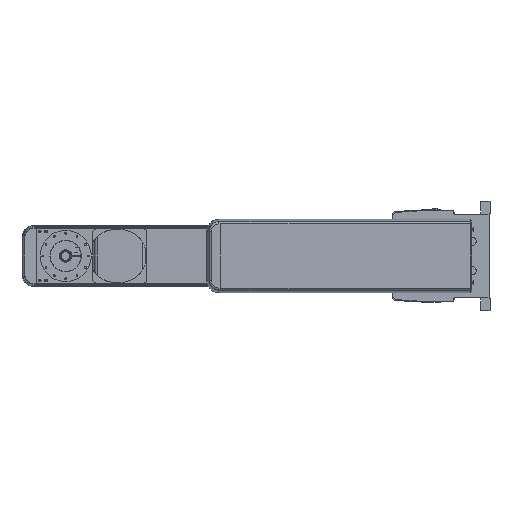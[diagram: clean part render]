
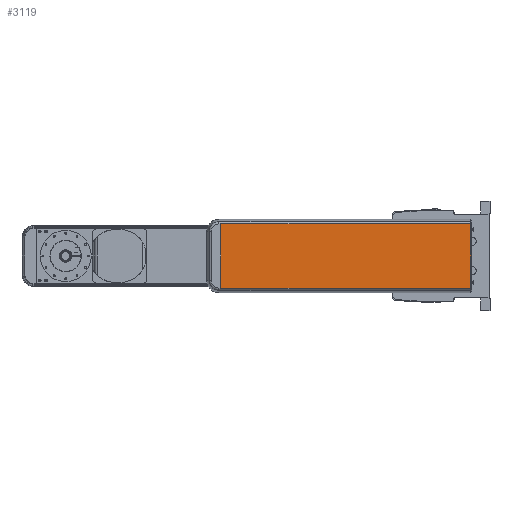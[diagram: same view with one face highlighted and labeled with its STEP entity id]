
A CAD part, front view. The second image highlights one B-rep face of the part: STEP entity #3119.
In plain terms, the highlighted planar face has unit normal (0, -1, 0).
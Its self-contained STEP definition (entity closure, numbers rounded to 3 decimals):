
#3119 = ADVANCED_FACE( '', ( #6750 ), #6751, .F. );
#6750 = FACE_OUTER_BOUND( '', #10988, .T. );
#6751 = PLANE( '', #10989 );
#10988 = EDGE_LOOP( '', ( #19431, #19432, #19433, #19434 ) );
#10989 = AXIS2_PLACEMENT_3D( '', #19435, #19436, #19437 );
#19431 = ORIENTED_EDGE( '', *, *, #22918, .F. );
#19432 = ORIENTED_EDGE( '', *, *, #24905, .T. );
#19433 = ORIENTED_EDGE( '', *, *, #24274, .T. );
#19434 = ORIENTED_EDGE( '', *, *, #23720, .F. );
#19435 = CARTESIAN_POINT( '', ( 68., -71.5, 52.065 ) );
#19436 = DIRECTION( '', ( 0., 1., 0. ) );
#19437 = DIRECTION( '', ( 0., 0., 1. ) );
#22918 = EDGE_CURVE( '', #27544, #27546, #27547, .T. );
#23720 = EDGE_CURVE( '', #27546, #28770, #28771, .T. );
#24274 = EDGE_CURVE( '', #29514, #28770, #29515, .T. );
#24905 = EDGE_CURVE( '', #27544, #29514, #30295, .T. );
#27544 = VERTEX_POINT( '', #34232 );
#27546 = VERTEX_POINT( '', #34235 );
#27547 = LINE( '', #34236, #34237 );
#28770 = VERTEX_POINT( '', #36091 );
#28771 = LINE( '', #36092, #36093 );
#29514 = VERTEX_POINT( '', #37271 );
#29515 = LINE( '', #37272, #37273 );
#30295 = LINE( '', #38400, #38401 );
#34232 = CARTESIAN_POINT( '', ( 58., -71.5, 52.065 ) );
#34235 = CARTESIAN_POINT( '', ( 58., -71.5, -52.065 ) );
#34236 = CARTESIAN_POINT( '', ( 58., -71.5, 52.065 ) );
#34237 = VECTOR( '', #40586, 1000. );
#36091 = CARTESIAN_POINT( '', ( -348., -71.5, -52.065 ) );
#36092 = CARTESIAN_POINT( '', ( 68., -71.5, -52.065 ) );
#36093 = VECTOR( '', #41612, 1000. );
#37271 = CARTESIAN_POINT( '', ( -348., -71.5, 52.065 ) );
#37272 = CARTESIAN_POINT( '', ( -348., -71.5, 52.065 ) );
#37273 = VECTOR( '', #42191, 1000. );
#38400 = CARTESIAN_POINT( '', ( 68., -71.5, 52.065 ) );
#38401 = VECTOR( '', #42797, 1000. );
#40586 = DIRECTION( '', ( 0., 0., -1. ) );
#41612 = DIRECTION( '', ( -1., 0., 0. ) );
#42191 = DIRECTION( '', ( 0., 0., -1. ) );
#42797 = DIRECTION( '', ( -1., 0., 0. ) );
